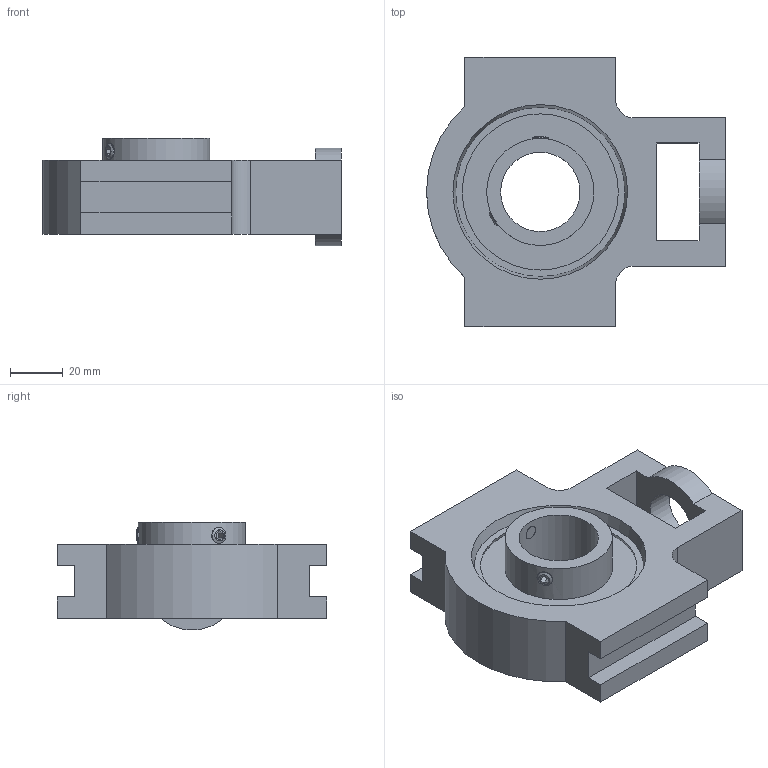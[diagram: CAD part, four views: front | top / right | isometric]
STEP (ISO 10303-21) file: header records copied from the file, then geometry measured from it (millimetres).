
FILE_DESCRIPTION((''),'2;1');
FILE_NAME('\\Ts-tgl068\j-cad-d-base\00.3DCADデータ作成フォルダ\03.テークアップ形\BT200\BT206.stp','2014-06-27T08:08:55',('btec_1106_2'),(''),'Autodesk Inventor 2012','Autodesk Inventor 2012','');
FILE_SCHEMA(('AUTOMOTIVE_DESIGN { 1 0 10303 214 1 1 1 1 }'));
Length unit declared in the file: millimetre
Products named in the file (3): BT200; T200G00 [番手=206 ul]; シリーズB [番手=6 ul]
Assembly tree (2 placements, depth 2):
  BT200
    T200G00 [番手=206 ul]
    シリーズB [番手=6 ul]
Bounding box: 113 x 102 x 40.74 mm (x, y, z)
Volume: 177588.8 mm3; surface area: 43941.9 mm2
Topology: 2 solids, 2 shells, 66 faces, 168 edges, 111 vertices
Faces by surface type: plane 46, cylinder 14, cone 4, sphere 2
Full cylindrical faces by diameter (mm): 6 x2, 22 x1, 30 x1, 40.5 x1
Entity records: 2088 total; most frequent: CARTESIAN_POINT 463, DIRECTION 316, ORIENTED_EDGE 300, EDGE_CURVE 150, VECTOR 110, LINE 110, VERTEX_POINT 106, AXIS2_PLACEMENT_3D 103
